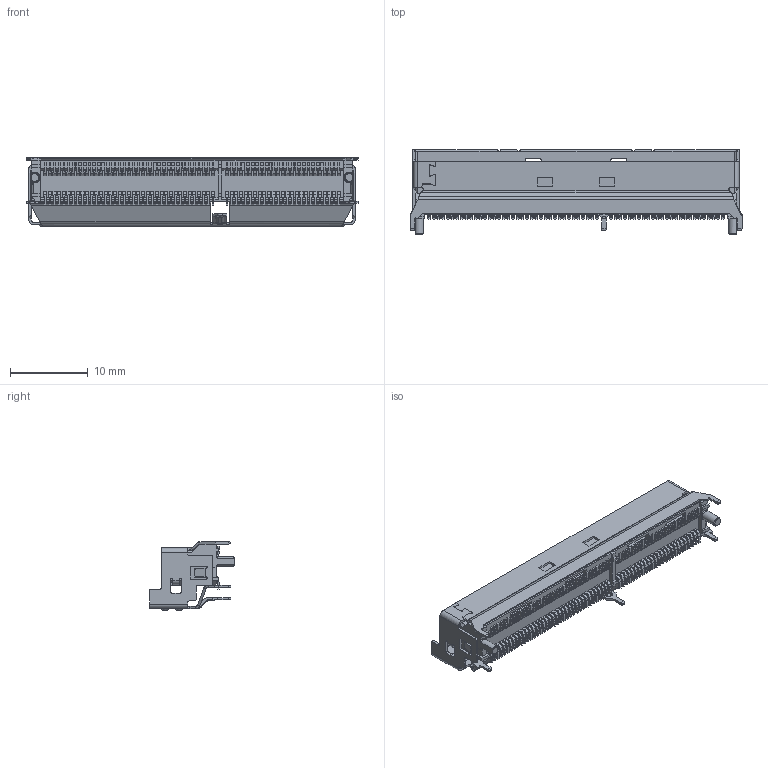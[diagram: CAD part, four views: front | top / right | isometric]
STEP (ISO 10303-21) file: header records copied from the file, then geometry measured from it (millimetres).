
FILE_DESCRIPTION((''),'2;1');
FILE_NAME('02V331X10H','2024-05-17T00:15:10',('ZL'),(''),'CREO PARAMETRIC BY PTC INC, 2020053','CREO PARAMETRIC BY PTC INC, 2020053','');
FILE_SCHEMA(('AUTOMOTIVE_DESIGN { 1 0 10303 214 1 1 1 1 }'));
Products named in the file (1): 02V331X10H
Bounding box: 42.75 x 10.9 x 8.82 mm (x, y, z)
Volume: 1046.4 mm3; surface area: 4442 mm2
Topology: 1 solids, 2 shells, 7589 faces, 22765 edges, 15040 vertices
Faces by surface type: plane 5410, cylinder 1647, extrusion 490, bspline 22, torus 14, cone 6
Entity records: 274251 total; most frequent: CARTESIAN_POINT 53107, ORIENTED_EDGE 45530, DIRECTION 39662, EDGE_CURVE 22765, VECTOR 18831, LINE 18341, VERTEX_POINT 15040, AXIS2_PLACEMENT_3D 10414
